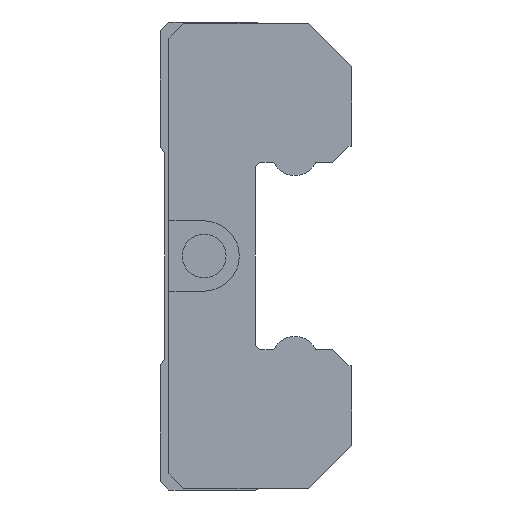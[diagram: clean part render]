
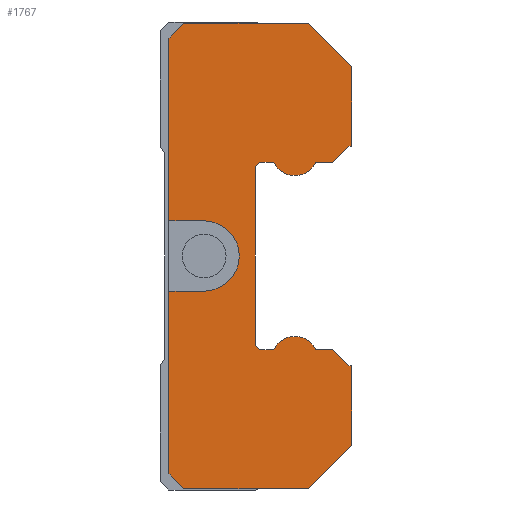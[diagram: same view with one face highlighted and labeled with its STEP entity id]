
A CAD part, left-side view. The second image highlights one B-rep face of the part: STEP entity #1767.
In plain terms, the highlighted planar face has unit normal (-1, 0, 0).
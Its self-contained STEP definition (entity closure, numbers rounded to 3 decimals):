
#52=CIRCLE('',#1885,2.4);
#53=CIRCLE('',#1886,0.15);
#54=CIRCLE('',#1887,1.6);
#55=CIRCLE('',#1888,0.15);
#56=CIRCLE('',#1889,0.15);
#57=CIRCLE('',#1890,1.6);
#58=CIRCLE('',#1891,0.15);
#96=ORIENTED_EDGE('',*,*,#600,.T.);
#97=ORIENTED_EDGE('',*,*,#601,.T.);
#98=ORIENTED_EDGE('',*,*,#602,.T.);
#99=ORIENTED_EDGE('',*,*,#598,.F.);
#100=ORIENTED_EDGE('',*,*,#603,.F.);
#101=ORIENTED_EDGE('',*,*,#604,.F.);
#102=ORIENTED_EDGE('',*,*,#605,.F.);
#103=ORIENTED_EDGE('',*,*,#606,.F.);
#104=ORIENTED_EDGE('',*,*,#607,.T.);
#105=ORIENTED_EDGE('',*,*,#608,.T.);
#106=ORIENTED_EDGE('',*,*,#609,.T.);
#107=ORIENTED_EDGE('',*,*,#610,.T.);
#108=ORIENTED_EDGE('',*,*,#611,.F.);
#109=ORIENTED_EDGE('',*,*,#612,.T.);
#110=ORIENTED_EDGE('',*,*,#613,.T.);
#111=ORIENTED_EDGE('',*,*,#614,.T.);
#112=ORIENTED_EDGE('',*,*,#615,.T.);
#113=ORIENTED_EDGE('',*,*,#616,.T.);
#114=ORIENTED_EDGE('',*,*,#617,.T.);
#115=ORIENTED_EDGE('',*,*,#618,.T.);
#116=ORIENTED_EDGE('',*,*,#619,.F.);
#117=ORIENTED_EDGE('',*,*,#620,.T.);
#118=ORIENTED_EDGE('',*,*,#621,.T.);
#119=ORIENTED_EDGE('',*,*,#622,.T.);
#120=ORIENTED_EDGE('',*,*,#623,.T.);
#121=ORIENTED_EDGE('',*,*,#624,.F.);
#122=ORIENTED_EDGE('',*,*,#625,.F.);
#123=ORIENTED_EDGE('',*,*,#626,.F.);
#124=ORIENTED_EDGE('',*,*,#627,.F.);
#125=ORIENTED_EDGE('',*,*,#594,.F.);
#594=EDGE_CURVE('',#846,#847,#1018,.T.);
#598=EDGE_CURVE('',#850,#851,#1022,.T.);
#600=EDGE_CURVE('',#846,#852,#1024,.T.);
#601=EDGE_CURVE('',#852,#853,#52,.T.);
#602=EDGE_CURVE('',#853,#851,#1025,.T.);
#603=EDGE_CURVE('',#854,#850,#1026,.T.);
#604=EDGE_CURVE('',#855,#854,#1027,.T.);
#605=EDGE_CURVE('',#856,#855,#1028,.T.);
#606=EDGE_CURVE('',#857,#856,#1029,.T.);
#607=EDGE_CURVE('',#857,#858,#1030,.T.);
#608=EDGE_CURVE('',#858,#859,#1031,.T.);
#609=EDGE_CURVE('',#859,#860,#1032,.T.);
#610=EDGE_CURVE('',#860,#861,#53,.T.);
#611=EDGE_CURVE('',#862,#861,#54,.T.);
#612=EDGE_CURVE('',#862,#863,#55,.T.);
#613=EDGE_CURVE('',#863,#864,#1033,.T.);
#614=EDGE_CURVE('',#864,#865,#1034,.T.);
#615=EDGE_CURVE('',#865,#866,#1035,.T.);
#616=EDGE_CURVE('',#866,#867,#1036,.T.);
#617=EDGE_CURVE('',#867,#868,#1037,.T.);
#618=EDGE_CURVE('',#868,#869,#56,.T.);
#619=EDGE_CURVE('',#870,#869,#57,.T.);
#620=EDGE_CURVE('',#870,#871,#58,.T.);
#621=EDGE_CURVE('',#871,#872,#1038,.T.);
#622=EDGE_CURVE('',#872,#873,#1039,.T.);
#623=EDGE_CURVE('',#873,#874,#1040,.T.);
#624=EDGE_CURVE('',#875,#874,#1041,.T.);
#625=EDGE_CURVE('',#876,#875,#1042,.T.);
#626=EDGE_CURVE('',#877,#876,#1043,.T.);
#627=EDGE_CURVE('',#847,#877,#1044,.T.);
#846=VERTEX_POINT('',#2524);
#847=VERTEX_POINT('',#2526);
#850=VERTEX_POINT('',#2532);
#851=VERTEX_POINT('',#2534);
#852=VERTEX_POINT('',#2538);
#853=VERTEX_POINT('',#2540);
#854=VERTEX_POINT('',#2543);
#855=VERTEX_POINT('',#2545);
#856=VERTEX_POINT('',#2547);
#857=VERTEX_POINT('',#2549);
#858=VERTEX_POINT('',#2551);
#859=VERTEX_POINT('',#2553);
#860=VERTEX_POINT('',#2555);
#861=VERTEX_POINT('',#2557);
#862=VERTEX_POINT('',#2559);
#863=VERTEX_POINT('',#2561);
#864=VERTEX_POINT('',#2563);
#865=VERTEX_POINT('',#2565);
#866=VERTEX_POINT('',#2567);
#867=VERTEX_POINT('',#2569);
#868=VERTEX_POINT('',#2571);
#869=VERTEX_POINT('',#2573);
#870=VERTEX_POINT('',#2575);
#871=VERTEX_POINT('',#2577);
#872=VERTEX_POINT('',#2579);
#873=VERTEX_POINT('',#2581);
#874=VERTEX_POINT('',#2583);
#875=VERTEX_POINT('',#2585);
#876=VERTEX_POINT('',#2587);
#877=VERTEX_POINT('',#2589);
#1018=LINE('',#2525,#1234);
#1022=LINE('',#2533,#1238);
#1024=LINE('',#2537,#1240);
#1025=LINE('',#2541,#1241);
#1026=LINE('',#2542,#1242);
#1027=LINE('',#2544,#1243);
#1028=LINE('',#2546,#1244);
#1029=LINE('',#2548,#1245);
#1030=LINE('',#2550,#1246);
#1031=LINE('',#2552,#1247);
#1032=LINE('',#2554,#1248);
#1033=LINE('',#2562,#1249);
#1034=LINE('',#2564,#1250);
#1035=LINE('',#2566,#1251);
#1036=LINE('',#2568,#1252);
#1037=LINE('',#2570,#1253);
#1038=LINE('',#2578,#1254);
#1039=LINE('',#2580,#1255);
#1040=LINE('',#2582,#1256);
#1041=LINE('',#2584,#1257);
#1042=LINE('',#2586,#1258);
#1043=LINE('',#2588,#1259);
#1044=LINE('',#2590,#1260);
#1234=VECTOR('',#2028,1000.);
#1238=VECTOR('',#2032,1000.);
#1240=VECTOR('',#2036,1000.);
#1241=VECTOR('',#2039,1000.);
#1242=VECTOR('',#2040,1000.);
#1243=VECTOR('',#2041,1000.);
#1244=VECTOR('',#2042,1000.);
#1245=VECTOR('',#2043,1000.);
#1246=VECTOR('',#2044,1000.);
#1247=VECTOR('',#2045,1000.);
#1248=VECTOR('',#2046,1000.);
#1249=VECTOR('',#2053,1000.);
#1250=VECTOR('',#2054,1000.);
#1251=VECTOR('',#2055,1000.);
#1252=VECTOR('',#2056,1000.);
#1253=VECTOR('',#2057,1000.);
#1254=VECTOR('',#2064,1000.);
#1255=VECTOR('',#2065,1000.);
#1256=VECTOR('',#2066,1000.);
#1257=VECTOR('',#2067,1000.);
#1258=VECTOR('',#2068,1000.);
#1259=VECTOR('',#2069,1000.);
#1260=VECTOR('',#2070,1000.);
#1449=EDGE_LOOP('',(#96,#97,#98,#99,#100,#101,#102,#103,#104,#105,#106,
#107,#108,#109,#110,#111,#112,#113,#114,#115,#116,#117,#118,#119,#120,#121,
#122,#123,#124,#125));
#1567=FACE_BOUND('',#1449,.T.);
#1689=PLANE('',#1884);
#1767=ADVANCED_FACE('',(#1567),#1689,.F.);
#1884=AXIS2_PLACEMENT_3D('',#2536,#2034,#2035);
#1885=AXIS2_PLACEMENT_3D('',#2539,#2037,#2038);
#1886=AXIS2_PLACEMENT_3D('',#2556,#2047,#2048);
#1887=AXIS2_PLACEMENT_3D('',#2558,#2049,#2050);
#1888=AXIS2_PLACEMENT_3D('',#2560,#2051,#2052);
#1889=AXIS2_PLACEMENT_3D('',#2572,#2058,#2059);
#1890=AXIS2_PLACEMENT_3D('',#2574,#2060,#2061);
#1891=AXIS2_PLACEMENT_3D('',#2576,#2062,#2063);
#2028=DIRECTION('',(0.,0.,1.));
#2032=DIRECTION('',(0.,0.,1.));
#2034=DIRECTION('',(1.,0.,0.));
#2035=DIRECTION('',(0.,0.,-1.));
#2036=DIRECTION('',(0.,-1.,0.));
#2037=DIRECTION('',(1.,0.,0.));
#2038=DIRECTION('',(0.,0.,-1.));
#2039=DIRECTION('',(0.,1.,0.));
#2040=DIRECTION('',(0.,0.707,0.707));
#2041=DIRECTION('',(0.,1.,0.));
#2042=DIRECTION('',(0.,0.707,-0.707));
#2043=DIRECTION('',(0.,0.,-1.));
#2044=DIRECTION('',(0.,1.,0.));
#2045=DIRECTION('',(0.,0.707,0.707));
#2046=DIRECTION('',(0.,1.,0.));
#2047=DIRECTION('',(1.,0.,0.));
#2048=DIRECTION('',(0.,0.,-1.));
#2049=DIRECTION('',(1.,0.,0.));
#2050=DIRECTION('',(0.,0.,-1.));
#2051=DIRECTION('',(1.,0.,0.));
#2052=DIRECTION('',(0.,0.,-1.));
#2053=DIRECTION('',(0.,1.,0.));
#2054=DIRECTION('',(0.,0.707,0.707));
#2055=DIRECTION('',(0.,0.,1.));
#2056=DIRECTION('',(0.,-0.707,0.707));
#2057=DIRECTION('',(0.,-1.,0.));
#2058=DIRECTION('',(1.,0.,0.));
#2059=DIRECTION('',(0.,0.,-1.));
#2060=DIRECTION('',(1.,0.,0.));
#2061=DIRECTION('',(0.,0.,-1.));
#2062=DIRECTION('',(1.,0.,0.));
#2063=DIRECTION('',(0.,0.,-1.));
#2064=DIRECTION('',(0.,-1.,0.));
#2065=DIRECTION('',(0.,-0.707,0.707));
#2066=DIRECTION('',(0.,-1.,0.));
#2067=DIRECTION('',(0.,0.,-1.));
#2068=DIRECTION('',(0.,-0.707,-0.707));
#2069=DIRECTION('',(0.,-1.,0.));
#2070=DIRECTION('',(0.,-0.707,0.707));
#2524=CARTESIAN_POINT('',(-30.4,12.7,2.4));
#2525=CARTESIAN_POINT('',(-30.4,12.7,-14.9));
#2526=CARTESIAN_POINT('',(-30.4,12.7,14.9));
#2532=CARTESIAN_POINT('',(-30.4,12.7,-14.9));
#2533=CARTESIAN_POINT('',(-30.4,12.7,-14.9));
#2534=CARTESIAN_POINT('',(-30.4,12.7,-2.4));
#2536=CARTESIAN_POINT('',(-30.4,0.,0.));
#2537=CARTESIAN_POINT('',(-30.4,13.3,2.4));
#2538=CARTESIAN_POINT('',(-30.4,10.3,2.4));
#2539=CARTESIAN_POINT('',(-30.4,10.3,0.));
#2540=CARTESIAN_POINT('',(-30.4,10.3,-2.4));
#2541=CARTESIAN_POINT('',(-30.4,10.3,-2.4));
#2542=CARTESIAN_POINT('',(-30.4,11.7,-15.9));
#2543=CARTESIAN_POINT('',(-30.4,11.7,-15.9));
#2544=CARTESIAN_POINT('',(-30.4,3.16,-15.9));
#2545=CARTESIAN_POINT('',(-30.4,3.16,-15.9));
#2546=CARTESIAN_POINT('',(-30.4,0.2,-12.94));
#2547=CARTESIAN_POINT('',(-30.4,0.2,-12.94));
#2548=CARTESIAN_POINT('',(-30.4,0.2,12.94));
#2549=CARTESIAN_POINT('',(-30.4,0.2,-7.5));
#2550=CARTESIAN_POINT('',(-30.4,-2.2,-7.5));
#2551=CARTESIAN_POINT('',(-30.4,0.4,-7.5));
#2552=CARTESIAN_POINT('',(-30.4,0.4,-7.5));
#2553=CARTESIAN_POINT('',(-30.4,1.5,-6.4));
#2554=CARTESIAN_POINT('',(-30.4,1.5,-6.4));
#2555=CARTESIAN_POINT('',(-30.4,2.57,-6.4));
#2556=CARTESIAN_POINT('',(-30.4,2.57,-6.25));
#2557=CARTESIAN_POINT('',(-30.4,2.701,-6.323));
#2558=CARTESIAN_POINT('',(-30.4,4.1,-7.1));
#2559=CARTESIAN_POINT('',(-30.4,5.499,-6.323));
#2560=CARTESIAN_POINT('',(-30.4,5.63,-6.25));
#2561=CARTESIAN_POINT('',(-30.4,5.63,-6.4));
#2562=CARTESIAN_POINT('',(-30.4,5.63,-6.4));
#2563=CARTESIAN_POINT('',(-30.4,6.5,-6.4));
#2564=CARTESIAN_POINT('',(-30.4,6.5,-6.4));
#2565=CARTESIAN_POINT('',(-30.4,6.8,-6.1));
#2566=CARTESIAN_POINT('',(-30.4,6.8,-6.1));
#2567=CARTESIAN_POINT('',(-30.4,6.8,6.1));
#2568=CARTESIAN_POINT('',(-30.4,6.8,6.1));
#2569=CARTESIAN_POINT('',(-30.4,6.5,6.4));
#2570=CARTESIAN_POINT('',(-30.4,6.5,6.4));
#2571=CARTESIAN_POINT('',(-30.4,5.63,6.4));
#2572=CARTESIAN_POINT('',(-30.4,5.63,6.25));
#2573=CARTESIAN_POINT('',(-30.4,5.499,6.323));
#2574=CARTESIAN_POINT('',(-30.4,4.1,7.1));
#2575=CARTESIAN_POINT('',(-30.4,2.701,6.323));
#2576=CARTESIAN_POINT('',(-30.4,2.57,6.25));
#2577=CARTESIAN_POINT('',(-30.4,2.57,6.4));
#2578=CARTESIAN_POINT('',(-30.4,2.57,6.4));
#2579=CARTESIAN_POINT('',(-30.4,1.5,6.4));
#2580=CARTESIAN_POINT('',(-30.4,1.5,6.4));
#2581=CARTESIAN_POINT('',(-30.4,0.4,7.5));
#2582=CARTESIAN_POINT('',(-30.4,0.4,7.5));
#2583=CARTESIAN_POINT('',(-30.4,0.2,7.5));
#2584=CARTESIAN_POINT('',(-30.4,0.2,12.94));
#2585=CARTESIAN_POINT('',(-30.4,0.2,12.94));
#2586=CARTESIAN_POINT('',(-30.4,3.16,15.9));
#2587=CARTESIAN_POINT('',(-30.4,3.16,15.9));
#2588=CARTESIAN_POINT('',(-30.4,11.7,15.9));
#2589=CARTESIAN_POINT('',(-30.4,11.7,15.9));
#2590=CARTESIAN_POINT('',(-30.4,12.7,14.9));
